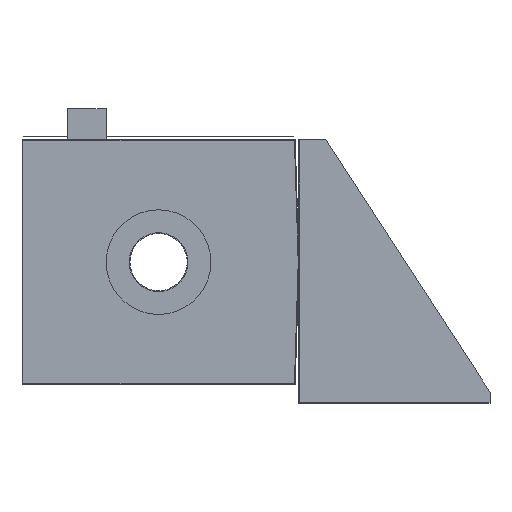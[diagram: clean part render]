
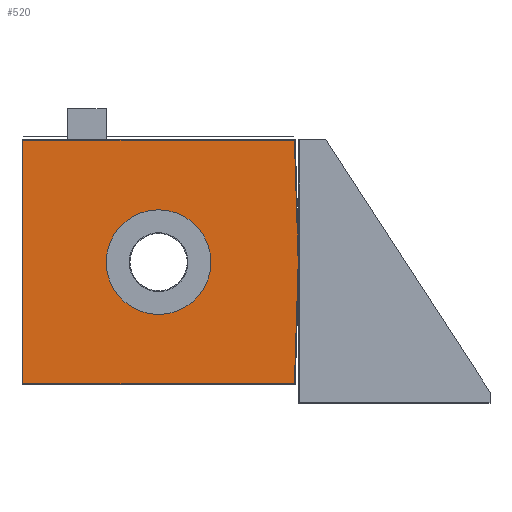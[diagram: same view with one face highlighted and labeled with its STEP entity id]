
A CAD part, left-side view. The second image highlights one B-rep face of the part: STEP entity #520.
In plain terms, the highlighted planar face has unit normal (-1, 0, 0).
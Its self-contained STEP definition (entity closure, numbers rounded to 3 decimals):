
#165=CARTESIAN_POINT('',(-260.,0.,0.));
#166=DIRECTION('',(1.,0.,0.));
#167=DIRECTION('',(0.,0.,-1.));
#168=AXIS2_PLACEMENT_3D('',#165,#166,#167);
#170=CARTESIAN_POINT('',(-260.,0.,0.));
#171=DIRECTION('',(1.,0.,0.));
#172=DIRECTION('',(0.,0.,1.));
#173=AXIS2_PLACEMENT_3D('',#170,#171,#172);
#175=DIRECTION('',(0.,0.,1.));
#176=VECTOR('',#175,640.);
#177=CARTESIAN_POINT('',(-260.,357.5,-320.));
#178=LINE('',#177,#176);
#179=DIRECTION('',(0.,-1.,0.));
#180=VECTOR('',#179,715.);
#181=CARTESIAN_POINT('',(-260.,357.5,320.));
#182=LINE('',#181,#180);
#183=DIRECTION('',(0.,-0.031,-1.));
#184=VECTOR('',#183,320.156);
#185=CARTESIAN_POINT('',(-260.,-357.5,320.));
#186=LINE('',#185,#184);
#187=DIRECTION('',(0.,0.031,-1.));
#188=VECTOR('',#187,320.156);
#189=CARTESIAN_POINT('',(-260.,-367.5,0.));
#190=LINE('',#189,#188);
#191=DIRECTION('',(0.,1.,0.));
#192=VECTOR('',#191,715.);
#193=CARTESIAN_POINT('',(-260.,-357.5,-320.));
#194=LINE('',#193,#192);
#337=CARTESIAN_POINT('',(-260.,357.5,-320.));
#338=CARTESIAN_POINT('',(-260.,357.5,320.));
#339=VERTEX_POINT('',#337);
#340=VERTEX_POINT('',#338);
#341=CARTESIAN_POINT('',(-260.,-357.5,320.));
#342=VERTEX_POINT('',#341);
#343=CARTESIAN_POINT('',(-260.,-367.5,0.));
#344=VERTEX_POINT('',#343);
#345=CARTESIAN_POINT('',(-260.,-357.5,-320.));
#346=VERTEX_POINT('',#345);
#375=CARTESIAN_POINT('',(-260.,0.,-77.));
#376=CARTESIAN_POINT('',(-260.,0.,77.));
#377=VERTEX_POINT('',#375);
#378=VERTEX_POINT('',#376);
#498=CARTESIAN_POINT('',(-260.,0.,0.));
#499=DIRECTION('',(1.,0.,0.));
#500=DIRECTION('',(0.,0.,-1.));
#501=AXIS2_PLACEMENT_3D('',#498,#499,#500);
#502=PLANE('',#501);
#503=ORIENTED_EDGE('',*,*,#488,.T.);
#505=ORIENTED_EDGE('',*,*,#504,.T.);
#507=ORIENTED_EDGE('',*,*,#506,.T.);
#509=ORIENTED_EDGE('',*,*,#508,.T.);
#511=ORIENTED_EDGE('',*,*,#510,.T.);
#512=EDGE_LOOP('',(#503,#505,#507,#509,#511));
#513=FACE_OUTER_BOUND('',#512,.F.);
#515=ORIENTED_EDGE('',*,*,#514,.F.);
#517=ORIENTED_EDGE('',*,*,#516,.F.);
#518=EDGE_LOOP('',(#515,#517));
#519=FACE_BOUND('',#518,.F.);
#169=CIRCLE('',#168,77.);
#174=CIRCLE('',#173,77.);
#488=EDGE_CURVE('',#339,#340,#178,.T.);
#504=EDGE_CURVE('',#340,#342,#182,.T.);
#506=EDGE_CURVE('',#342,#344,#186,.T.);
#508=EDGE_CURVE('',#344,#346,#190,.T.);
#510=EDGE_CURVE('',#346,#339,#194,.T.);
#514=EDGE_CURVE('',#377,#378,#169,.T.);
#516=EDGE_CURVE('',#378,#377,#174,.T.);
#520=ADVANCED_FACE('',(#513,#519),#502,.F.);
